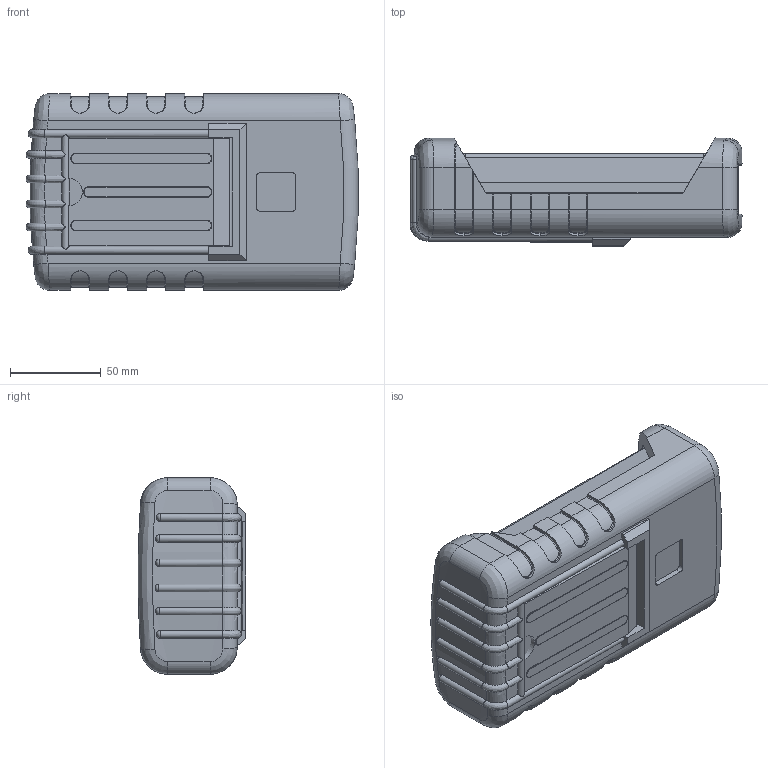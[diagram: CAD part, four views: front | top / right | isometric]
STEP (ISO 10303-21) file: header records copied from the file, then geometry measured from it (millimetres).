
FILE_DESCRIPTION (( 'STEP AP214' ), '1' );
FILE_NAME ('91-42-9V-E-R.STEP', '2020-10-17T15:22:39', ( 'Rudy' ), ( '' ), 'SwSTEP 2.0', 'SolidWorks 2014', '' );
FILE_SCHEMA (( 'AUTOMOTIVE_DESIGN' ));
Length unit declared in the file: millimetre
Products named in the file (9): 90 RBE Boot; RE 90 stand; 90 PCB 9V; 90 LCD Expander; 9V door; 91 LCD Top; 90-9V Shallow; 91-42-9V-E-R
Assembly tree (8 placements, depth 3):
  91-42-9V-E-R
    90-9V Shallow
    91 LCD Top
    9V door
    90 LCD Expander
    90 PCB 9V
    90 RBE Boot
      90 RBE Boot
      RE 90 stand
Bounding box: 183.26 x 59.56 x 108.46 mm (x, y, z)
Volume: 406722.2 mm3; surface area: 215395.3 mm2
Topology: 7 solids, 7 shells, 1093 faces, 2888 edges, 1850 vertices
Faces by surface type: plane 565, cylinder 318, bspline 76, cone 68, torus 53, sphere 13
Entity records: 40632 total; most frequent: CARTESIAN_POINT 13741, ORIENTED_EDGE 5736, DIRECTION 5346, EDGE_CURVE 2868, VERTEX_POINT 1842, AXIS2_PLACEMENT_3D 1822, VECTOR 1702, LINE 1702
